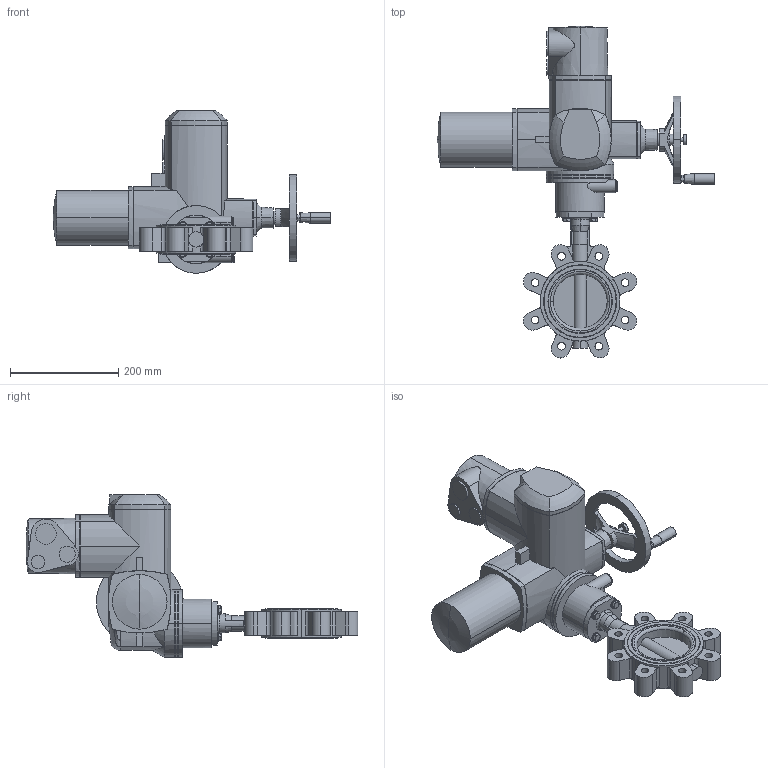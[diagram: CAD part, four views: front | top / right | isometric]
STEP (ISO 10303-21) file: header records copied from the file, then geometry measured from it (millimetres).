
FILE_DESCRIPTION (( 'STEP AP214' ), '1' );
FILE_NAME ('66577.step', '2020-10-23T14:34:10', ( '' ), ( '' ), 'SwSTEP 2.0', 'SolidWorks 2019', '' );
FILE_SCHEMA (( 'AUTOMOTIVE_DESIGN' ));
Length unit declared in the file: millimetre
Products named in the file (7): U-Scheibe DIN 125 A_M8; 66577; 6kt-Schr DIN 933_M8x20; Gewindestift mit Kegelkuppe und In-6kt DIN 913 A4_Gewindestift mit In-6kt M5x10; 54377_SQ05.2 F05_F07-VK11; TL20-0100_M02; SQ(R) 05.2_SQ 05.2 Drehstrommotor
Assembly tree (12 placements, depth 2):
  66577
    TL20-0100_M02
    SQ(R) 05.2_SQ 05.2 Drehstrommotor
    U-Scheibe DIN 125 A_M8  x4
    6kt-Schr DIN 933_M8x20  x4
    54377_SQ05.2 F05_F07-VK11
    Gewindestift mit Kegelkuppe und In-6kt DIN 913 A4_Gewindestift mit In-6kt M5x10
Bounding box: 512.7 x 613.26 x 300.3 mm (x, y, z)
Volume: 8983637.1 mm3; surface area: 533630.5 mm2
Topology: 12 solids, 12 shells, 754 faces, 1896 edges, 1205 vertices
Faces by surface type: plane 369, cylinder 247, cone 117, bspline 11, torus 6, sphere 4
Entity records: 29691 total; most frequent: CARTESIAN_POINT 7910, DIRECTION 3433, ORIENTED_EDGE 3370, EDGE_CURVE 1685, AXIS2_PLACEMENT_3D 1275, VERTEX_POINT 1083, VECTOR 883, LINE 883
